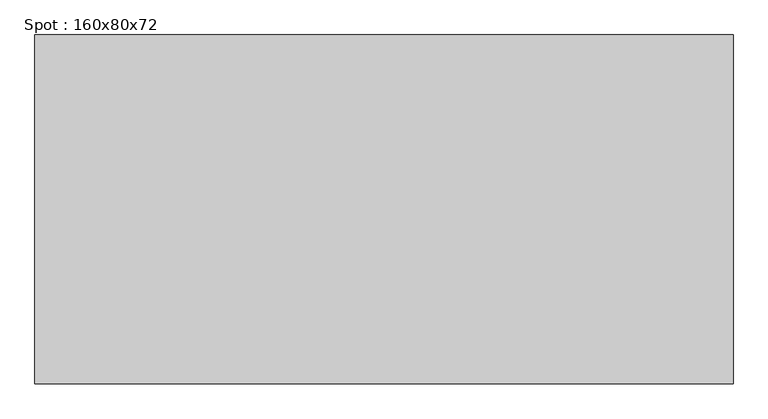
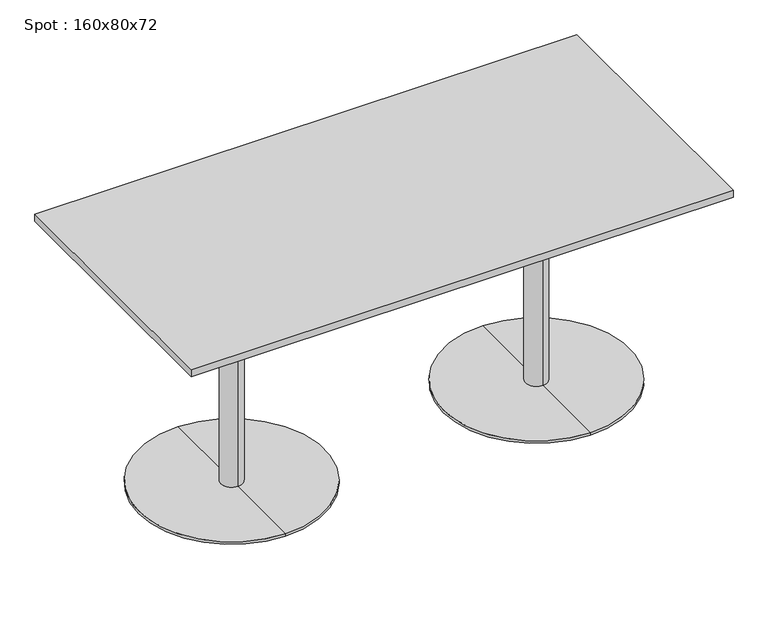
"""IFC4 building model written with IfcOpenShell, lengths in millimetres: furniture geometry, Spot : 160x80x72."""

from ifc_helpers import new_model, si_unit, frame, origin, place, context, project, spatial, polyline, circle_curve, outline, extrude, source, transform, mapped, element, save
from ifc_brep_helpers import plane_surface, cylinder_surface, revolved_surface, advanced_brep


def spot_160x80x72_6ab75bf0(model_context):
    return source(origin(), model_context, "Body", "SolidModel", [
        extrude(outline(polyline([(800.0, 400.0), (800.0, -400.0), (-800.0, -400.0), (-800.0, 400.0), (800.0, 400.0)])), frame((0.0, 0.0, 698.0), z_axis=(0.0, 0.0, 1.0), x_axis=(1.0, 0.0, 0.0)), (0.0, 0.0, 1.0), 22.0),
        advanced_brep(
        [(-450.0, 32.0, 10.0), (-450.0, -32.0, 10.0), (-450.0, -32.0, 667.406916), (-450.0, 32.0, 667.406916), (-450.0, 275.0, 10.0), (-450.0, -275.0, 10.0), (-450.0, 275.0, 2.0), (-450.0, -275.0, 2.0), (-450.0, 0.0, 2.0), (-450.0, 150.0, 698.0), (-450.0, -150.0, 698.0), (-450.0, 0.0, 698.0), (-450.0, 150.0, 686.7213673), (-450.0, -150.0, 686.7213673)],
        [
            (0, 1, circle_curve(frame((-450.0, 0.0, 10.0), z_axis=(0.0, 0.0, 1.0), x_axis=(0.0, -1.0, 0.0)), 32.0)),
            (1, 2),
            (2, 3, circle_curve(frame((-450.0, 0.0, 667.406916), z_axis=(0.0, 0.0, -1.0), x_axis=(0.0, -1.0, 0.0)), 32.0)),
            (3, 0),
            (1, 0, circle_curve(frame((-450.0, 0.0, 10.0), z_axis=(0.0, 0.0, 1.0), x_axis=(0.0, -1.0, 0.0)), 32.0)),
            (3, 2, circle_curve(frame((-450.0, 0.0, 667.406916), z_axis=(0.0, 0.0, -1.0), x_axis=(0.0, -1.0, 0.0)), 32.0)),
            (4, 5, circle_curve(frame((-450.0, 0.0, 10.0), z_axis=(0.0, 0.0, 1.0), x_axis=(0.0, -1.0, 0.0)), 275.0)),
            (5, 1),
            (0, 4),
            (5, 4, circle_curve(frame((-450.0, 0.0, 10.0), z_axis=(0.0, 0.0, 1.0), x_axis=(0.0, -1.0, 0.0)), 275.0)),
            (6, 7, circle_curve(frame((-450.0, 0.0, 2.0), z_axis=(0.0, 0.0, 1.0), x_axis=(0.0, -1.0, 0.0)), 275.0)),
            (7, 5),
            (4, 6),
            (7, 6, circle_curve(frame((-450.0, 0.0, 2.0), z_axis=(0.0, 0.0, 1.0), x_axis=(0.0, -1.0, 0.0)), 275.0)),
            (8, 7),
            (6, 8),
            (9, 10, circle_curve(frame((-450.0, 0.0, 698.0), z_axis=(0.0, 0.0, 1.0), x_axis=(0.0, -1.0, 0.0)), 150.0)),
            (10, 11),
            (11, 9),
            (10, 9, circle_curve(frame((-450.0, 0.0, 698.0), z_axis=(0.0, 0.0, 1.0), x_axis=(0.0, -1.0, 0.0)), 150.0)),
            (12, 13, circle_curve(frame((-450.0, 0.0, 686.7213673), z_axis=(0.0, 0.0, 1.0), x_axis=(0.0, -1.0, 0.0)), 150.0)),
            (13, 10),
            (9, 12),
            (13, 12, circle_curve(frame((-450.0, 0.0, 686.7213673), z_axis=(0.0, 0.0, 1.0), x_axis=(0.0, -1.0, 0.0)), 150.0)),
            (2, 13),
            (12, 3),
        ],
        [
            cylinder_surface(frame((-450.0, 0.0, 1060.0), z_axis=(0.0, 0.0, -1.0), x_axis=(0.0, -1.0, 0.0)), 32.0),
            plane_surface(frame((-450.0, 0.0, 10.0), z_axis=(0.0, 0.0, 1.0), x_axis=(0.0, -1.0, 0.0))),
            cylinder_surface(frame((-450.0, 0.0, 1060.0), z_axis=(0.0, 0.0, -1.0), x_axis=(0.0, -1.0, 0.0)), 275.0),
            plane_surface(frame((-450.0, 0.0, 2.0), z_axis=(0.0, 0.0, -1.0), x_axis=(0.0, -1.0, 0.0))),
            plane_surface(frame((-450.0, 0.0, 698.0), z_axis=(0.0, 0.0, 1.0), x_axis=(0.0, -1.0, 0.0))),
            cylinder_surface(frame((-450.0, 0.0, 1060.0), z_axis=(0.0, 0.0, -1.0), x_axis=(0.0, -1.0, 0.0)), 150.0),
            revolved_surface(polyline([(-450.0, -150.0, 686.7213673), (-450.0, -32.0, 667.406916)]), (-450.0, 0.0, 1060.0), (0.0, 0.0, -1.0)),
        ],
        [
            (0, [[1, 2, 3, 4]]),
            (0, [[5, -4, 6, -2]]),
            (1, [[7, 8, -1, 9]]),
            (1, [[10, -9, -5, -8]]),
            (2, [[11, 12, -7, 13]]),
            (2, [[14, -13, -10, -12]]),
            (3, [[15, -11, 16]]),
            (3, [[-16, -14, -15]]),
            (4, [[17, 18, 19]]),
            (4, [[20, -19, -18]]),
            (5, [[21, 22, -17, 23]]),
            (5, [[24, -23, -20, -22]]),
            (6, [[-3, 25, -21, 26]]),
            (6, [[-6, -26, -24, -25]]),
        ],
    ),
        advanced_brep(
        [(450.0, 32.0, 10.0), (450.0, -32.0, 10.0), (450.0, -32.0, 667.406916), (450.0, 32.0, 667.406916), (450.0, 275.0, 10.0), (450.0, -275.0, 10.0), (450.0, 275.0, 2.0), (450.0, -275.0, 2.0), (450.0, 0.0, 2.0), (450.0, 150.0, 698.0), (450.0, -150.0, 698.0), (450.0, 0.0, 698.0), (450.0, 150.0, 686.7213673), (450.0, -150.0, 686.7213673)],
        [
            (0, 1, circle_curve(frame((450.0, 0.0, 10.0), z_axis=(0.0, 0.0, 1.0), x_axis=(0.0, -1.0, 0.0)), 32.0)),
            (1, 2),
            (2, 3, circle_curve(frame((450.0, 0.0, 667.406916), z_axis=(0.0, 0.0, -1.0), x_axis=(0.0, -1.0, 0.0)), 32.0)),
            (3, 0),
            (1, 0, circle_curve(frame((450.0, 0.0, 10.0), z_axis=(0.0, 0.0, 1.0), x_axis=(0.0, -1.0, 0.0)), 32.0)),
            (3, 2, circle_curve(frame((450.0, 0.0, 667.406916), z_axis=(0.0, 0.0, -1.0), x_axis=(0.0, -1.0, 0.0)), 32.0)),
            (4, 5, circle_curve(frame((450.0, 0.0, 10.0), z_axis=(0.0, 0.0, 1.0), x_axis=(0.0, -1.0, 0.0)), 275.0)),
            (5, 1),
            (0, 4),
            (5, 4, circle_curve(frame((450.0, 0.0, 10.0), z_axis=(0.0, 0.0, 1.0), x_axis=(0.0, -1.0, 0.0)), 275.0)),
            (6, 7, circle_curve(frame((450.0, 0.0, 2.0), z_axis=(0.0, 0.0, 1.0), x_axis=(0.0, -1.0, 0.0)), 275.0)),
            (7, 5),
            (4, 6),
            (7, 6, circle_curve(frame((450.0, 0.0, 2.0), z_axis=(0.0, 0.0, 1.0), x_axis=(0.0, -1.0, 0.0)), 275.0)),
            (8, 7),
            (6, 8),
            (9, 10, circle_curve(frame((450.0, 0.0, 698.0), z_axis=(0.0, 0.0, 1.0), x_axis=(0.0, -1.0, 0.0)), 150.0)),
            (10, 11),
            (11, 9),
            (10, 9, circle_curve(frame((450.0, 0.0, 698.0), z_axis=(0.0, 0.0, 1.0), x_axis=(0.0, -1.0, 0.0)), 150.0)),
            (12, 13, circle_curve(frame((450.0, 0.0, 686.7213673), z_axis=(0.0, 0.0, 1.0), x_axis=(0.0, -1.0, 0.0)), 150.0)),
            (13, 10),
            (9, 12),
            (13, 12, circle_curve(frame((450.0, 0.0, 686.7213673), z_axis=(0.0, 0.0, 1.0), x_axis=(0.0, -1.0, 0.0)), 150.0)),
            (2, 13),
            (12, 3),
        ],
        [
            cylinder_surface(frame((450.0, 0.0, 1060.0), z_axis=(0.0, 0.0, -1.0), x_axis=(0.0, -1.0, 0.0)), 32.0),
            plane_surface(frame((450.0, 0.0, 10.0), z_axis=(0.0, 0.0, 1.0), x_axis=(0.0, -1.0, 0.0))),
            cylinder_surface(frame((450.0, 0.0, 1060.0), z_axis=(0.0, 0.0, -1.0), x_axis=(0.0, -1.0, 0.0)), 275.0),
            plane_surface(frame((450.0, 0.0, 2.0), z_axis=(0.0, 0.0, -1.0), x_axis=(0.0, -1.0, 0.0))),
            plane_surface(frame((450.0, 0.0, 698.0), z_axis=(0.0, 0.0, 1.0), x_axis=(0.0, -1.0, 0.0))),
            cylinder_surface(frame((450.0, 0.0, 1060.0), z_axis=(0.0, 0.0, -1.0), x_axis=(0.0, -1.0, 0.0)), 150.0),
            revolved_surface(polyline([(450.0, -150.0, 686.7213673), (450.0, -32.0, 667.406916)]), (450.0, 0.0, 1060.0), (0.0, 0.0, -1.0)),
        ],
        [
            (0, [[1, 2, 3, 4]]),
            (0, [[5, -4, 6, -2]]),
            (1, [[7, 8, -1, 9]]),
            (1, [[10, -9, -5, -8]]),
            (2, [[11, 12, -7, 13]]),
            (2, [[14, -13, -10, -12]]),
            (3, [[15, -11, 16]]),
            (3, [[-16, -14, -15]]),
            (4, [[17, 18, 19]]),
            (4, [[20, -19, -18]]),
            (5, [[21, 22, -17, 23]]),
            (5, [[24, -23, -20, -22]]),
            (6, [[-3, 25, -21, 26]]),
            (6, [[-6, -26, -24, -25]]),
        ],
    ),
    ])


if __name__ == "__main__":
    model = new_model("IFC4")
    model_context = context("Model", 3, world=origin())
    ifc_project = project(units=[si_unit("LENGTHUNIT", "METRE", prefix="MILLI")], contexts=[model_context])
    site = spatial("IfcSite", under=ifc_project)
    building = spatial("IfcBuilding", under=site)
    placement = place(None, origin())
    spot_160x80x72_shape = spot_160x80x72_6ab75bf0(model_context)
    element("IfcFurniture", 1, ObjectType="Spot : 160x80x72", at=placement, inside=building, context=model_context, shape_type="MappedRepresentation", body=[
        mapped(spot_160x80x72_shape, transform((0.0, 0.0, 0.0), x_axis=(1.0, 0.0, 0.0), y_axis=(0.0, 1.0, 0.0), z_axis=(0.0, 0.0, 1.0))),
    ])
    save(model, "model.ifc")
